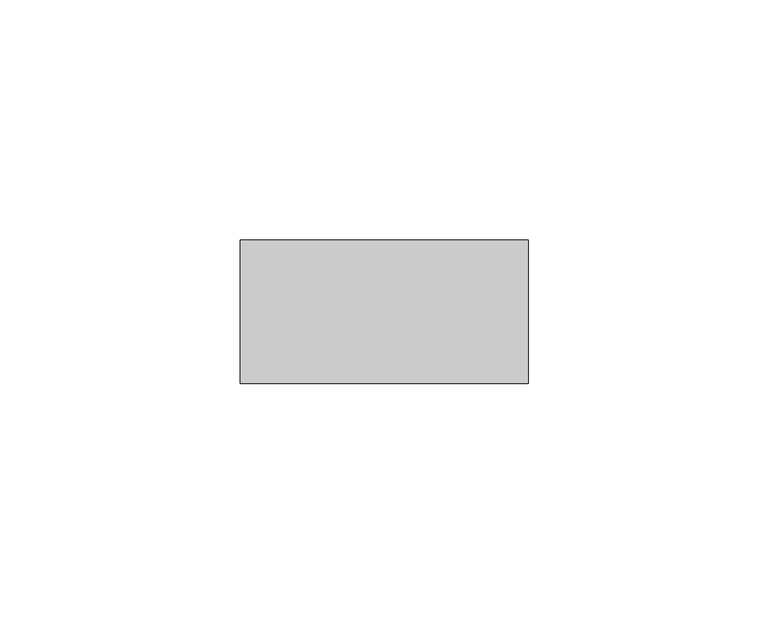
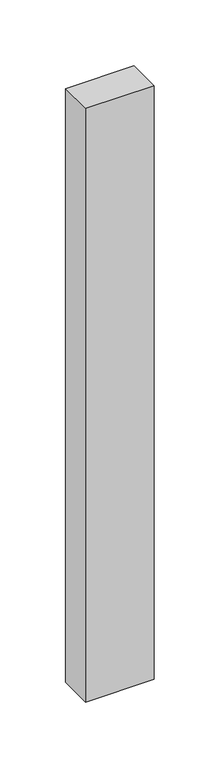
"""IFC4 building model written with IfcOpenShell, lengths in millimetres: member geometry, Прямоугольный импост : Квадрат 30 мм."""

from ifc_helpers import new_model, si_unit, frame, origin, place, context, project, spatial, polyline, outline, extrude, source, transform, mapped, element, save


def member_da7d7fce(model_context):
    return source(origin(), model_context, "Body", "SweptSolid", [
        extrude(outline(polyline([(30.0, 15.0), (30.0, -15.0), (-30.0, -15.0), (-30.0, 15.0), (30.0, 15.0)])), frame((0.0, 0.0, -550.0), z_axis=(0.0, 0.0, 1.0), x_axis=(1.0, 0.0, 0.0)), (0.0, 0.0, 1.0), 550.0),
    ])


if __name__ == "__main__":
    model = new_model("IFC4")
    model_context = context("Model", 3, world=origin())
    ifc_project = project(units=[si_unit("LENGTHUNIT", "METRE", prefix="MILLI")], contexts=[model_context])
    site = spatial("IfcSite", under=ifc_project)
    building = spatial("IfcBuilding", under=site)
    placement = place(None, origin())
    member_shape = member_da7d7fce(model_context)
    element("IfcMember", 1, ObjectType="Прямоугольный импост : Квадрат 30 мм", at=placement, inside=building, context=model_context, shape_type="MappedRepresentation", body=[
        mapped(member_shape, transform((0.0, 0.0, 0.0), x_axis=(1.0, 0.0, 0.0), y_axis=(0.0, 1.0, 0.0), z_axis=(0.0, 0.0, 1.0))),
    ])
    save(model, "model.ifc")
